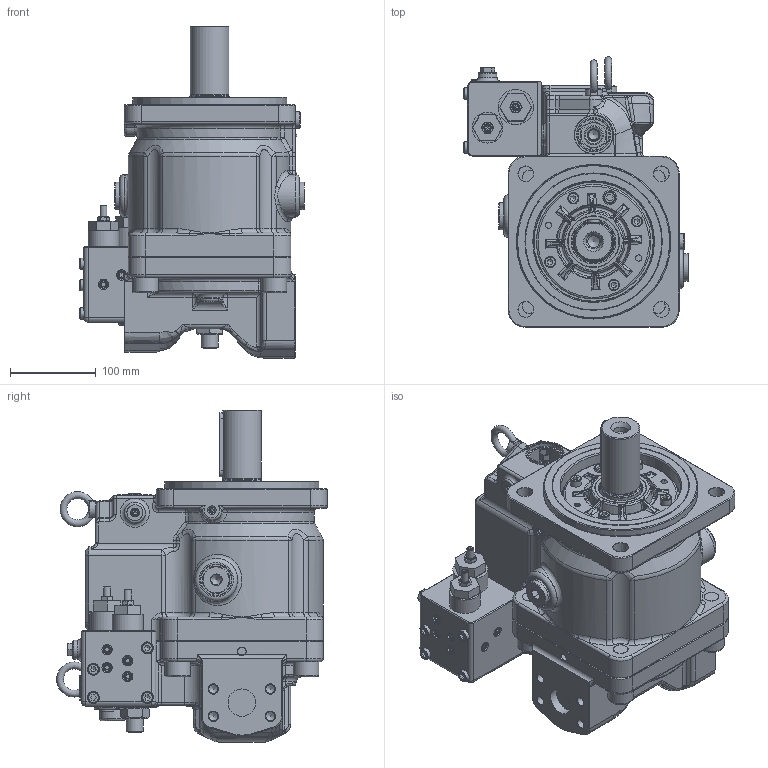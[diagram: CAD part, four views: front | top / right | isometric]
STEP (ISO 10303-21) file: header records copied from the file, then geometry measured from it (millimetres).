
FILE_DESCRIPTION(/* description */ (''),/* implementation_level */ '2;1');
FILE_NAME(/* name */ 'K3VL112_140_B-10RMM-P0.stp',/* time_stamp */ '2025-02-13T15:28:27Z',/* author */ ('Sjolliffe'),/* organization */ (''),/* preprocessor_version */ 'ST-DEVELOPER v20',/* originating_system */ 'Autodesk Inventor 2024',/* authorisation */ '');
FILE_SCHEMA (('AUTOMOTIVE_DESIGN { 1 0 10303 214 3 1 1 }'));
Products named in the file (1): K3VL112_140_B-10RMM-P0
Bounding box: 262.8 x 316.5 x 388 mm (x, y, z)
Volume: 11422637 mm3; surface area: 476349.3 mm2
Topology: 1 solids, 1 shells, 7468 faces, 20658 edges, 13313 vertices
Faces by surface type: plane 5590, cylinder 621, bspline 552, cone 474, torus 185, sphere 46
Full cylindrical faces by diameter (mm): 4 x6, 6.2 x9, 7 x1, 8 x2, 9.4 x9, 10 x1, 10.592 x8, 12 x9, 13 x8, 13.835 x1, 14 x6, 16 x2, 17 x1, 17.294 x4, 18 x6, 18.9 x1, 19 x1, 20 x1, 22 x1, 22.4 x1, 30 x5, 31.9 x2, 32 x8, 36 x1, 36.4 x2, 40 x1, 41 x1, 44.4 x1, 45 x2, 48 x1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
Entity records: 253692 total; most frequent: CARTESIAN_POINT 58822, ORIENTED_EDGE 41070, DIRECTION 35408, EDGE_CURVE 20535, LINE 16894, VECTOR 16894, VERTEX_POINT 13313, AXIS2_PLACEMENT_3D 9257
